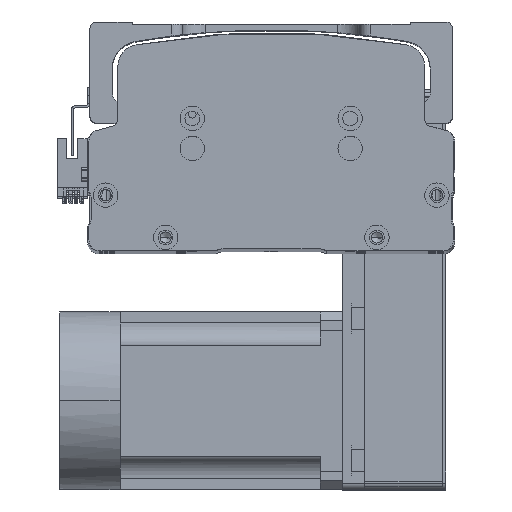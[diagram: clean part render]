
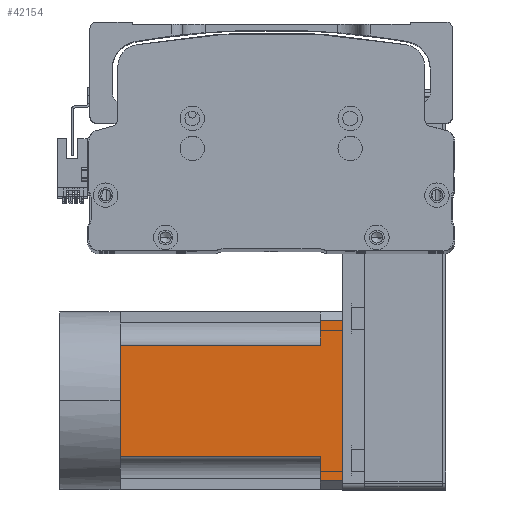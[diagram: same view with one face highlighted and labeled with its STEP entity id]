
A CAD part, top view. The second image highlights one B-rep face of the part: STEP entity #42154.
In plain terms, the highlighted planar face has unit normal (0, 0, 1) as drawn and (0, 0, -1) by its records, which use the part's own axes.
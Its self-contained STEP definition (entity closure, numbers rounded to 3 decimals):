
#277 = LINE ( 'NONE', #47683, #49886 ) ;
#1298 = CARTESIAN_POINT ( 'NONE',  ( -40., 100., -40. ) ) ;
#4721 = VERTEX_POINT ( 'NONE', #56366 ) ;
#6863 = EDGE_CURVE ( 'NONE', #25923, #33963, #10711, .T. ) ;
#6956 = DIRECTION ( 'NONE',  ( -1., 0., 0. ) ) ;
#7085 = CARTESIAN_POINT ( 'NONE',  ( -40., -27., -40. ) ) ;
#7154 = VECTOR ( 'NONE', #42698, 1000. ) ;
#7593 = ORIENTED_EDGE ( 'NONE', *, *, #6863, .T. ) ;
#8761 = ORIENTED_EDGE ( 'NONE', *, *, #14621, .T. ) ;
#9161 = ORIENTED_EDGE ( 'NONE', *, *, #44961, .F. ) ;
#10711 = LINE ( 'NONE', #15197, #21976 ) ;
#10782 = CARTESIAN_POINT ( 'NONE',  ( 36., 90., -40. ) ) ;
#11072 = EDGE_CURVE ( 'NONE', #36548, #4721, #32706, .T. ) ;
#12468 = CARTESIAN_POINT ( 'NONE',  ( -25., -27., -40. ) ) ;
#13088 = LINE ( 'NONE', #27667, #34085 ) ;
#14621 = EDGE_CURVE ( 'NONE', #29255, #25369, #49583, .T. ) ;
#15197 = CARTESIAN_POINT ( 'NONE',  ( 36., -27., -40. ) ) ;
#15630 = ORIENTED_EDGE ( 'NONE', *, *, #52659, .T. ) ;
#16472 = CARTESIAN_POINT ( 'NONE',  ( -40., 0., -40. ) ) ;
#17264 = CARTESIAN_POINT ( 'NONE',  ( -36., 100., -40. ) ) ;
#17304 = DIRECTION ( 'NONE',  ( 0., 1., 0. ) ) ;
#17579 = EDGE_CURVE ( 'NONE', #22237, #47899, #277, .T. ) ;
#21605 = PLANE ( 'NONE',  #37327 ) ;
#21955 = EDGE_LOOP ( 'NONE', ( #9161, #7593, #33091, #48803, #51766, #25463, #31354, #15630, #8761 ) ) ;
#21976 = VECTOR ( 'NONE', #24893, 1000. ) ;
#22237 = VERTEX_POINT ( 'NONE', #44103 ) ;
#22830 = VECTOR ( 'NONE', #17304, 1000. ) ;
#23549 = DIRECTION ( 'NONE',  ( -1., 0., 0. ) ) ;
#24893 = DIRECTION ( 'NONE',  ( 0., -1., 0. ) ) ;
#25369 = VERTEX_POINT ( 'NONE', #17264 ) ;
#25463 = ORIENTED_EDGE ( 'NONE', *, *, #11072, .T. ) ;
#25923 = VERTEX_POINT ( 'NONE', #50719 ) ;
#26286 = CARTESIAN_POINT ( 'NONE',  ( -36., 90., -40. ) ) ;
#26458 = DIRECTION ( 'NONE',  ( 0., 0., -1. ) ) ;
#27667 = CARTESIAN_POINT ( 'NONE',  ( -40., 90., -40. ) ) ;
#28095 = VERTEX_POINT ( 'NONE', #61893 ) ;
#28857 = CARTESIAN_POINT ( 'NONE',  ( 0., 0., -40. ) ) ;
#29255 = VERTEX_POINT ( 'NONE', #26286 ) ;
#31354 = ORIENTED_EDGE ( 'NONE', *, *, #35319, .T. ) ;
#31731 = VECTOR ( 'NONE', #6956, 1000. ) ;
#32706 = LINE ( 'NONE', #56953, #7154 ) ;
#32752 = VECTOR ( 'NONE', #23549, 1000. ) ;
#33091 = ORIENTED_EDGE ( 'NONE', *, *, #34366, .T. ) ;
#33963 = VERTEX_POINT ( 'NONE', #10782 ) ;
#34085 = VECTOR ( 'NONE', #56393, 1000. ) ;
#34366 = EDGE_CURVE ( 'NONE', #33963, #22237, #45527, .T. ) ;
#35319 = EDGE_CURVE ( 'NONE', #4721, #28095, #61113, .T. ) ;
#35323 = VECTOR ( 'NONE', #36935, 1000. ) ;
#35807 = CARTESIAN_POINT ( 'NONE',  ( 25., 0., -40. ) ) ;
#36548 = VERTEX_POINT ( 'NONE', #28857 ) ;
#36935 = DIRECTION ( 'NONE',  ( 0., 1., 0. ) ) ;
#37327 = AXIS2_PLACEMENT_3D ( 'NONE', #7085, #26458, #59997 ) ;
#42154 = ADVANCED_FACE ( 'NONE', ( #62070 ), #21605, .T. ) ;
#42298 = LINE ( 'NONE', #1298, #53525 ) ;
#42698 = DIRECTION ( 'NONE',  ( -1., 0., 0. ) ) ;
#44103 = CARTESIAN_POINT ( 'NONE',  ( 25., 90., -40. ) ) ;
#44522 = LINE ( 'NONE', #16472, #31731 ) ;
#44961 = EDGE_CURVE ( 'NONE', #25923, #25369, #42298, .T. ) ;
#45047 = EDGE_CURVE ( 'NONE', #47899, #36548, #44522, .T. ) ;
#45527 = LINE ( 'NONE', #56906, #32752 ) ;
#46577 = CARTESIAN_POINT ( 'NONE',  ( -36., -27., -40. ) ) ;
#47683 = CARTESIAN_POINT ( 'NONE',  ( 25., -27., -40. ) ) ;
#47899 = VERTEX_POINT ( 'NONE', #35807 ) ;
#48803 = ORIENTED_EDGE ( 'NONE', *, *, #17579, .T. ) ;
#49583 = LINE ( 'NONE', #46577, #35323 ) ;
#49886 = VECTOR ( 'NONE', #62189, 1000. ) ;
#50719 = CARTESIAN_POINT ( 'NONE',  ( 36., 100., -40. ) ) ;
#51766 = ORIENTED_EDGE ( 'NONE', *, *, #45047, .T. ) ;
#52659 = EDGE_CURVE ( 'NONE', #28095, #29255, #13088, .T. ) ;
#53525 = VECTOR ( 'NONE', #58848, 1000. ) ;
#56366 = CARTESIAN_POINT ( 'NONE',  ( -25., 0., -40. ) ) ;
#56393 = DIRECTION ( 'NONE',  ( -1., 0., 0. ) ) ;
#56906 = CARTESIAN_POINT ( 'NONE',  ( -40., 90., -40. ) ) ;
#56953 = CARTESIAN_POINT ( 'NONE',  ( -40., 0., -40. ) ) ;
#58848 = DIRECTION ( 'NONE',  ( -1., 0., 0. ) ) ;
#59997 = DIRECTION ( 'NONE',  ( -1., 0., 0. ) ) ;
#61113 = LINE ( 'NONE', #12468, #22830 ) ;
#61893 = CARTESIAN_POINT ( 'NONE',  ( -25., 90., -40. ) ) ;
#62070 = FACE_OUTER_BOUND ( 'NONE', #21955, .T. ) ;
#62189 = DIRECTION ( 'NONE',  ( 0., -1., 0. ) ) ;
